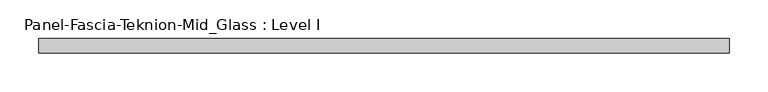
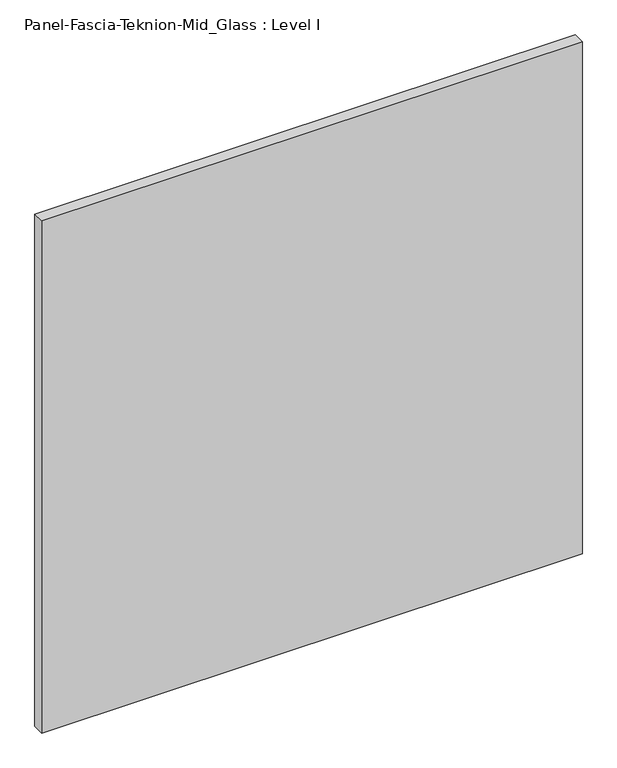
"""IFC4 building model written with IfcOpenShell, lengths in millimetres: proxy geometry, Panel-Fascia-Teknion-Mid_Glass : Level I."""

from ifc_helpers import new_model, si_unit, frame, origin, place, context, project, spatial, polyline, outline, extrude, source, transform, mapped, element, save


def panel_fascia_teknion_mid_glass_level_i_dc0ea009(model_context):
    return source(origin(), model_context, "Body", "SweptSolid", [
        extrude(outline(polyline([(447.0356344, -9.525), (-447.0356344, -9.525), (-447.0356344, 9.525), (447.0356344, 9.525), (447.0356344, -9.525)])), frame((0.0, 0.0, 3.175), z_axis=(0.0, 0.0, 1.0), x_axis=(1.0, 0.0, 0.0)), (0.0, 0.0, 1.0), 895.35),
    ])


if __name__ == "__main__":
    model = new_model("IFC4")
    model_context = context("Model", 3, world=origin())
    ifc_project = project(units=[si_unit("LENGTHUNIT", "METRE", prefix="MILLI")], contexts=[model_context])
    site = spatial("IfcSite", under=ifc_project)
    building = spatial("IfcBuilding", under=site)
    placement = place(None, origin())
    panel_fascia_teknion_mid_glass_level_i_shape = panel_fascia_teknion_mid_glass_level_i_dc0ea009(model_context)
    element("IfcBuildingElementProxy", 1, Name="Panel-Fascia-Teknion-Mid_Glass : Level I", ObjectType="Panel-Fascia-Teknion-Mid_Glass : Level I", at=placement, inside=building, context=model_context, shape_type="MappedRepresentation", body=[
        mapped(panel_fascia_teknion_mid_glass_level_i_shape, transform((0.0, 0.0, 0.0), x_axis=(1.0, 0.0, 0.0), y_axis=(0.0, 1.0, 0.0), z_axis=(0.0, 0.0, 1.0))),
    ])
    save(model, "model.ifc")
